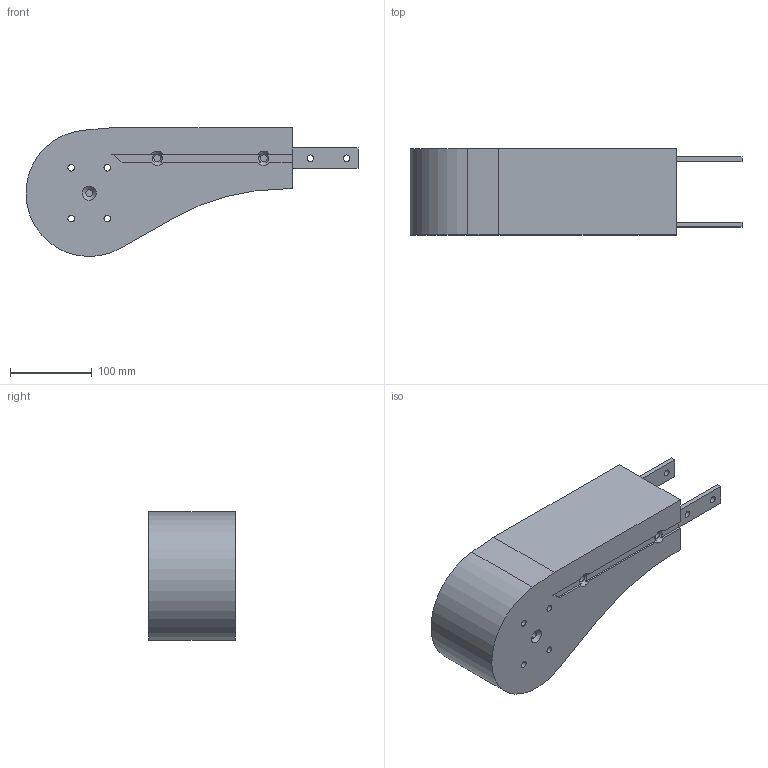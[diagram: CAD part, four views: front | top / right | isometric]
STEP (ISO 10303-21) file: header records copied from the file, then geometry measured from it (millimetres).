
FILE_DESCRIPTION(/* description */ ('Umlenkeinheit FH'),/* implementation_level */ '2;1');
FILE_NAME(/* name */ 'T:\vdz0\Step Daten Website\modulflex FH-System\Umlenkeinheiten\FHEJ 325_44120.stp',/* time_stamp */ '2024-08-22T09:08:34+02:00',/* author */ ('vdz0'),/* organization */ ('modular automation GmbH'),/* preprocessor_version */ 'ST-DEVELOPER v18.1',/* originating_system */ 'Autodesk Inventor 2021',/* authorisation */ '');
FILE_SCHEMA (('CONFIG_CONTROL_DESIGN'));
Length unit declared in the file: millimetre
Products named in the file (1): FHEJ 325_44120
Bounding box: 405.12 x 105 x 157.4 mm (x, y, z)
Volume: 3763473.1 mm3; surface area: 183537.5 mm2
Topology: 1 solids, 1 shells, 69 faces, 175 edges, 112 vertices
Faces by surface type: plane 41, cylinder 18, cone 10
Full cylindrical faces by diameter (mm): 8 x8, 8.5 x6
Entity records: 2142 total; most frequent: CARTESIAN_POINT 389, DIRECTION 357, ORIENTED_EDGE 350, EDGE_CURVE 175, AXIS2_PLACEMENT_3D 128, VERTEX_POINT 112, LINE 101, VECTOR 101
